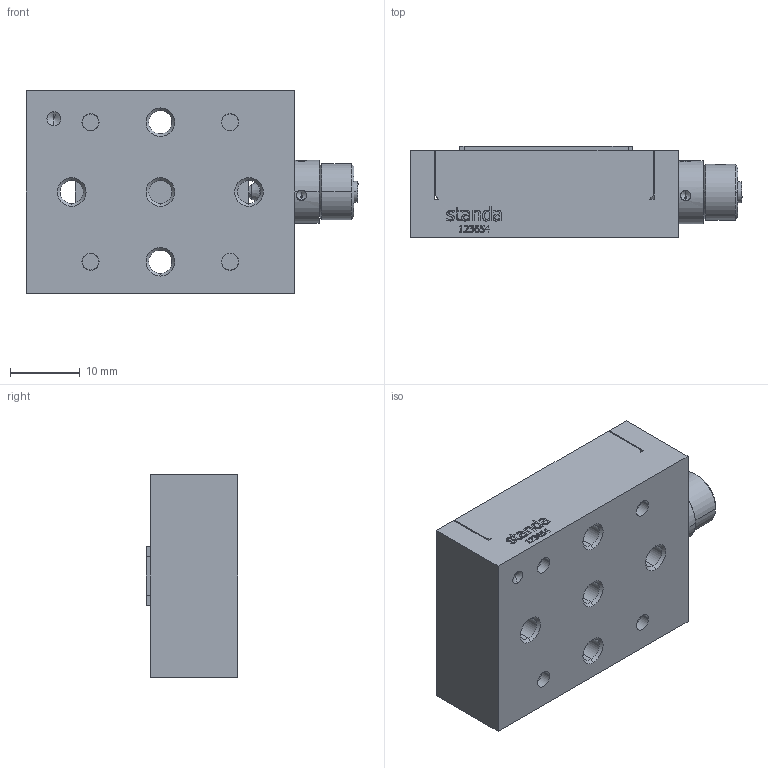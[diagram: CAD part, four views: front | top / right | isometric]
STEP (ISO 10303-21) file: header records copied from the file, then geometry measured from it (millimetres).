
FILE_DESCRIPTION (( 'STEP AP203' ), '1' );
FILE_NAME ('7T67-6-9SH137MN.STEP', '2010-02-01T09:16:29', ( 'Darius' ), ( '' ), 'SwSTEP 2.0', 'SolidWorks 2003240', '' );
FILE_SCHEMA (( 'CONFIG_CONTROL_DESIGN' ));
Length unit declared in the file: millimetre
Products named in the file (1): 7T67-6-9SH137MN
Bounding box: 47.58 x 13.1 x 29 mm (x, y, z)
Volume: 12663.4 mm3; surface area: 8406.2 mm2
Topology: 1 solids, 5 shells, 602 faces, 1663 edges, 1069 vertices
Faces by surface type: plane 265, bspline 175, cylinder 96, cone 66
Entity records: 25643 total; most frequent: CARTESIAN_POINT 11887, ORIENTED_EDGE 3194, DIRECTION 2155, EDGE_CURVE 1597, VERTEX_POINT 1069, VECTOR 799, LINE 799, EDGE_LOOP 712
